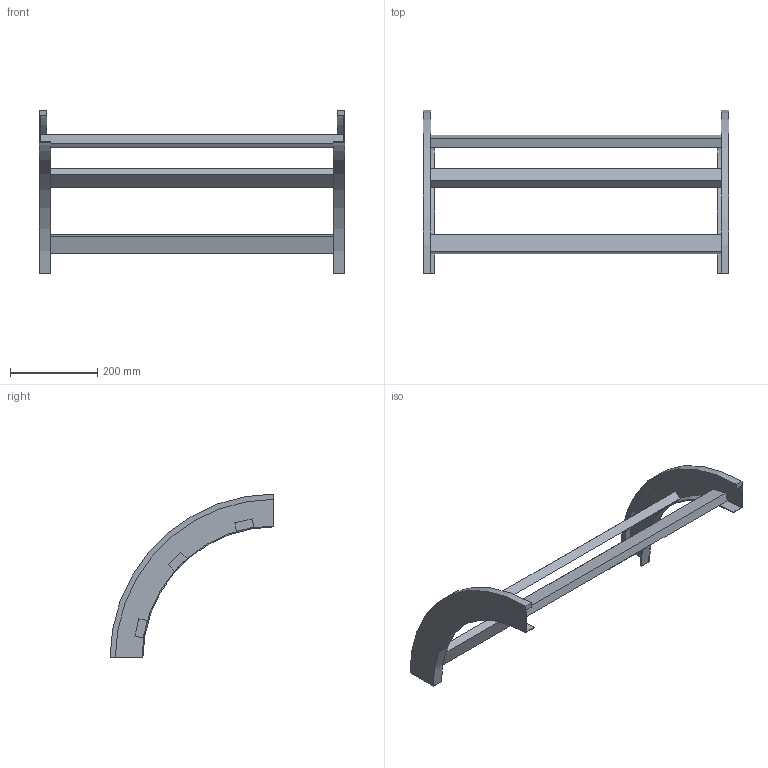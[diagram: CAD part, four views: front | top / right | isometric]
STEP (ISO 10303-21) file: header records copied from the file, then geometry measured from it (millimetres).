
FILE_DESCRIPTION (( 'STEP AP214' ), '1' );
FILE_NAME ('B2_33B3C700.step', '2025-02-21T15:06:16', ( '' ), ( '' ), 'SwSTEP 2.0', 'SolidWorks 2023', '' );
FILE_SCHEMA (( 'AUTOMOTIVE_DESIGN' ));
Length unit declared in the file: millimetre
Products named in the file (3): B2_33B3C700; TRAVERSINO_700; B2_LONGH.DISCESA_90°_H75_R300
Assembly tree (5 placements, depth 2):
  B2_33B3C700
    B2_LONGH.DISCESA_90°_H75_R300  x2
    TRAVERSINO_700  x3
Bounding box: 700 x 375 x 375 mm (x, y, z)
Volume: 2120179.7 mm3; surface area: 506737.2 mm2
Topology: 5 solids, 5 shells, 38 faces, 84 edges, 56 vertices
Faces by surface type: plane 30, cylinder 8
Entity records: 560 total; most frequent: DIRECTION 92, CARTESIAN_POINT 84, ORIENTED_EDGE 72, EDGE_CURVE 36, AXIS2_PLACEMENT_3D 32, LINE 28, VECTOR 28, VERTEX_POINT 24
